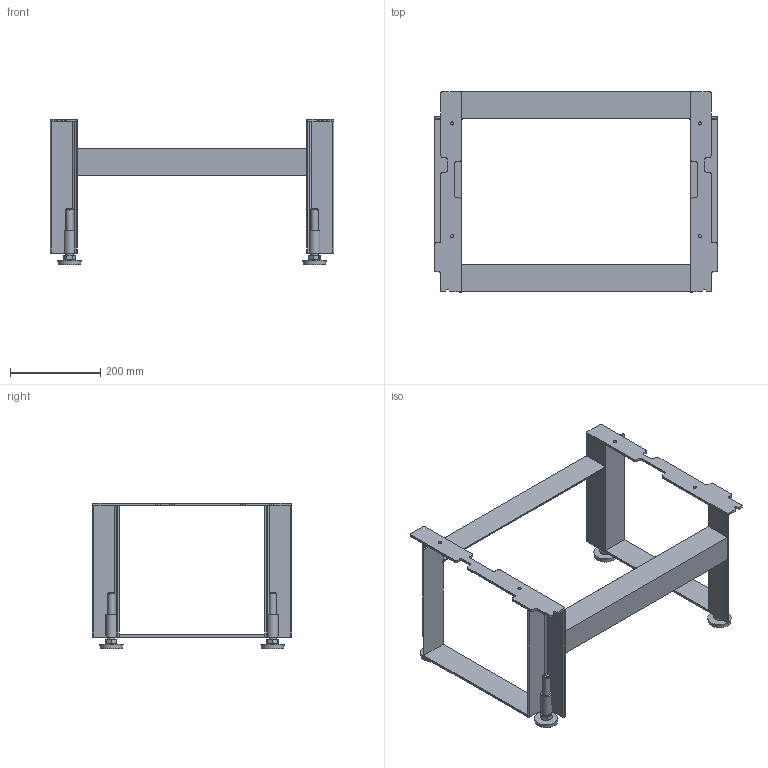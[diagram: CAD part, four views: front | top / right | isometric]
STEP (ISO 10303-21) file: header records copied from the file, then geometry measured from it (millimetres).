
FILE_DESCRIPTION(/* description */ (''),/* implementation_level */ '2;1');
FILE_NAME(/* name */ 'C:\Users\jku\Desktop\Traggestelle\2017-01258\2017-01258.stp',/* time_stamp */ '2020-03-13T09:57:25+01:00',/* author */ ('JKU'),/* organization */ (''),/* preprocessor_version */ 'ST-DEVELOPER v17.2',/* originating_system */ 'Autodesk Inventor 2019',/* authorisation */ '');
FILE_SCHEMA (('AUTOMOTIVE_DESIGN { 1 0 10303 214 3 1 1 }'));
Length unit declared in the file: millimetre
Products named in the file (8): 2017-01258; 2017-01622; 2017-01254; 2017-01255; 2017-01256; 2007-00087; 2017-01620; 120-050
Assembly tree (19 placements, depth 3):
  2017-01258
    2017-01622
      2017-01254  x2
      2017-01255  x4
      2017-01256  x2
      2007-00087  x4
      2017-01620  x2
    120-050  x4
Bounding box: 630 x 444 x 323 mm (x, y, z)
Volume: 1885066.7 mm3; surface area: 771441.2 mm2
Topology: 18 solids, 18 shells, 354 faces, 930 edges, 632 vertices
Faces by surface type: plane 178, cylinder 104, cone 72
Full cylindrical faces by diameter (mm): 7 x4, 13.835 x4, 16 x4, 17 x4, 24 x4, 30 x4
Entity records: 4153 total; most frequent: CARTESIAN_POINT 834, DIRECTION 663, ORIENTED_EDGE 626, EDGE_CURVE 313, AXIS2_PLACEMENT_3D 245, VERTEX_POINT 212, LINE 173, VECTOR 173
